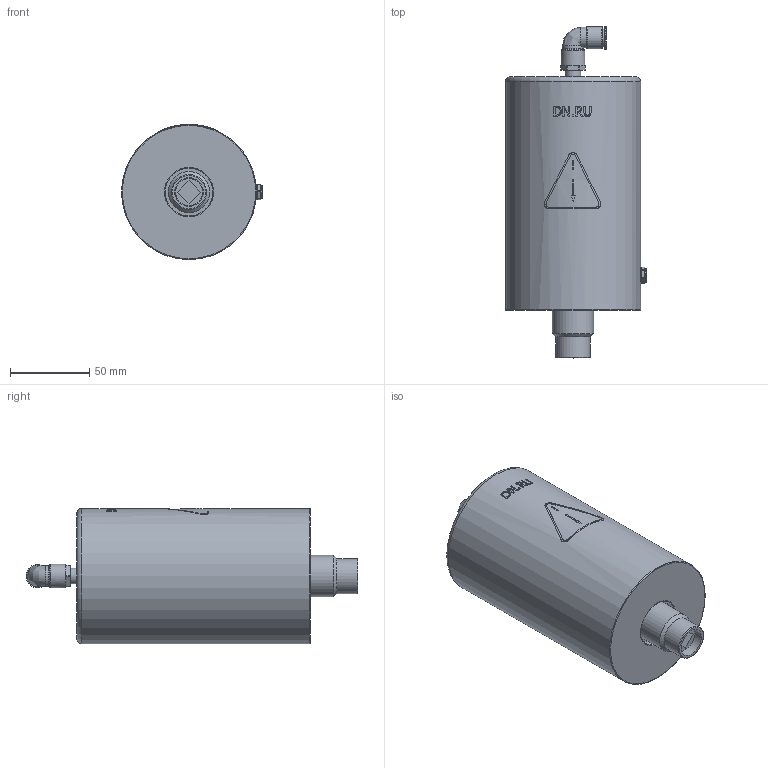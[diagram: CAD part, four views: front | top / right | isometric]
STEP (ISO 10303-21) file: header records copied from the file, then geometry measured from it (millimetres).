
FILE_DESCRIPTION(/* description */ ('D290-00344','CAx-IF Rec.Pracs.---Representation and Presentation of Product Manufacturing Information (PMI)---4.0---2014-10-13'),/* implementation_level */ '2;1');
FILE_NAME(/* name */ '',/* time_stamp */ '2026-04-17T00:05:50+03:00',/* author */ ('DN.RU'),/* organization */ (''),/* preprocessor_version */ 'ST-DEVELOPER v20',/* originating_system */ 'Autodesk Inventor 2025',/* authorisation */ '');
FILE_SCHEMA (('AP242_MANAGED_MODEL_BASED_3D_ENGINEERING_MIM_LF { 1 0 10303 442 1 1 4 }'));
Length unit declared in the file: millimetre
Products named in the file (1): PA-SA-85
Bounding box: 88.75 x 208.93 x 85.1 mm (x, y, z)
Volume: 846057.8 mm3; surface area: 62852.1 mm2
Topology: 1 solids, 1 shells, 192 faces, 476 edges, 310 vertices
Faces by surface type: plane 106, cylinder 49, bspline 24, torus 12, cone 1
Full cylindrical faces by diameter (mm): 5.896 x1, 7.534 x1, 8.533 x2, 9.73 x1, 10.198 x1, 11.437 x1, 13 x2, 14 x1, 14.678 x1, 15 x1, 17 x1, 18 x1, 22 x1, 26 x1, 30 x1, 85 x1
Entity records: 7120 total; most frequent: CARTESIAN_POINT 2075, DIRECTION 987, ORIENTED_EDGE 948, EDGE_CURVE 474, AXIS2_PLACEMENT_3D 382, VERTEX_POINT 310, STYLED_ITEM 237, LINE 223
